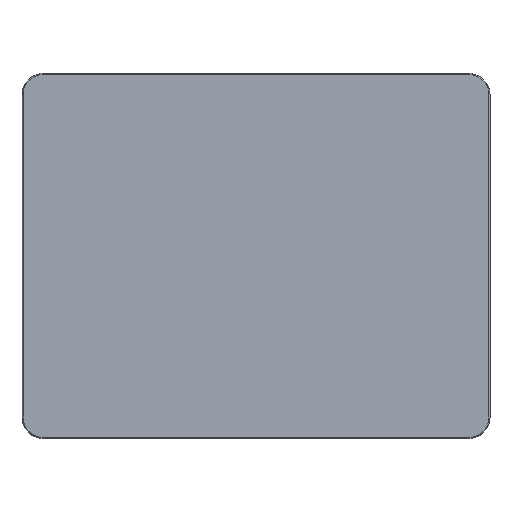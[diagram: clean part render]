
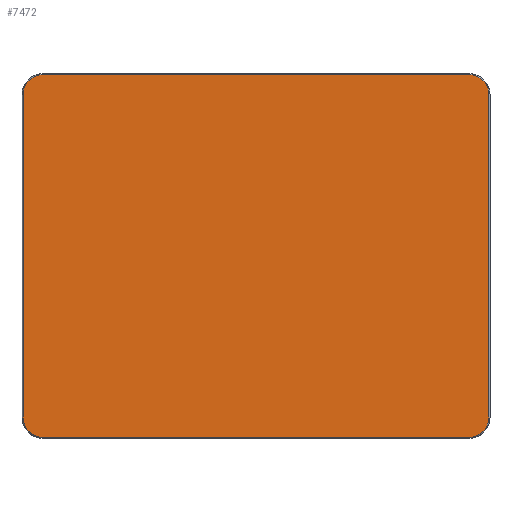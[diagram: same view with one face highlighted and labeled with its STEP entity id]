
A CAD part, top view. The second image highlights one B-rep face of the part: STEP entity #7472.
In plain terms, the highlighted planar face has unit normal (0, 0, 1).
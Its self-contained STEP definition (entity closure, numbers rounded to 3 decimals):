
#5824 = PLANE('',#5825);
#5825 = AXIS2_PLACEMENT_3D('',#5826,#5827,#5828);
#5826 = CARTESIAN_POINT('',(-1.6,-81.675,29.875));
#5827 = DIRECTION('',(0.,0.707,-0.707));
#5828 = DIRECTION('',(-1.,-0.,-0.));
#5907 = CONICAL_SURFACE('',#5908,5.2,0.785);
#5908 = AXIS2_PLACEMENT_3D('',#5909,#5910,#5911);
#5909 = CARTESIAN_POINT('',(101.6,-76.6,29.75));
#5910 = DIRECTION('',(-0.,-0.,-1.));
#5911 = DIRECTION('',(0.,-1.,0.));
#5923 = VERTEX_POINT('',#5924);
#5924 = CARTESIAN_POINT('',(-1.6,-81.55,30.));
#5937 = CONICAL_SURFACE('',#5938,5.2,0.785);
#5938 = AXIS2_PLACEMENT_3D('',#5939,#5940,#5941);
#5939 = CARTESIAN_POINT('',(-1.6,-76.6,29.75));
#5940 = DIRECTION('',(-0.,-0.,-1.));
#5941 = DIRECTION('',(-1.,0.,0.));
#5950 = VERTEX_POINT('',#5951);
#5951 = CARTESIAN_POINT('',(101.6,-81.55,30.));
#5970 = EDGE_CURVE('',#5923,#5950,#5971,.T.);
#5971 = SURFACE_CURVE('',#5972,(#5976,#5983),.PCURVE_S1.);
#5972 = LINE('',#5973,#5974);
#5973 = CARTESIAN_POINT('',(-1.6,-81.55,30.));
#5974 = VECTOR('',#5975,1.);
#5975 = DIRECTION('',(1.,0.,0.));
#5976 = PCURVE('',#5824,#5977);
#5977 = DEFINITIONAL_REPRESENTATION('',(#5978),#5982);
#5978 = LINE('',#5979,#5980);
#5979 = CARTESIAN_POINT('',(-0.,0.177));
#5980 = VECTOR('',#5981,1.);
#5981 = DIRECTION('',(-1.,0.));
#5982 = ( GEOMETRIC_REPRESENTATION_CONTEXT(2) 
PARAMETRIC_REPRESENTATION_CONTEXT() REPRESENTATION_CONTEXT('2D SPACE',''
  ) );
#5983 = PCURVE('',#5984,#5989);
#5984 = PLANE('',#5985);
#5985 = AXIS2_PLACEMENT_3D('',#5986,#5987,#5988);
#5986 = CARTESIAN_POINT('',(50.,-37.5,30.));
#5987 = DIRECTION('',(0.,0.,1.));
#5988 = DIRECTION('',(1.,0.,-0.));
#5989 = DEFINITIONAL_REPRESENTATION('',(#5990),#5994);
#5990 = LINE('',#5991,#5992);
#5991 = CARTESIAN_POINT('',(-51.6,-44.05));
#5992 = VECTOR('',#5993,1.);
#5993 = DIRECTION('',(1.,0.));
#5994 = ( GEOMETRIC_REPRESENTATION_CONTEXT(2) 
PARAMETRIC_REPRESENTATION_CONTEXT() REPRESENTATION_CONTEXT('2D SPACE',''
  ) );
#7324 = VERTEX_POINT('',#7325);
#7325 = CARTESIAN_POINT('',(106.55,-76.6,30.));
#7338 = PLANE('',#7339);
#7339 = AXIS2_PLACEMENT_3D('',#7340,#7341,#7342);
#7340 = CARTESIAN_POINT('',(106.675,-76.6,29.875));
#7341 = DIRECTION('',(-0.707,0.,-0.707));
#7342 = DIRECTION('',(-0.,-1.,-0.));
#7349 = EDGE_CURVE('',#5950,#7324,#7350,.T.);
#7350 = SURFACE_CURVE('',#7351,(#7356,#7363),.PCURVE_S1.);
#7351 = CIRCLE('',#7352,4.95);
#7352 = AXIS2_PLACEMENT_3D('',#7353,#7354,#7355);
#7353 = CARTESIAN_POINT('',(101.6,-76.6,30.));
#7354 = DIRECTION('',(0.,0.,1.));
#7355 = DIRECTION('',(0.,-1.,0.));
#7356 = PCURVE('',#5907,#7357);
#7357 = DEFINITIONAL_REPRESENTATION('',(#7358),#7362);
#7358 = LINE('',#7359,#7360);
#7359 = CARTESIAN_POINT('',(-0.,-0.25));
#7360 = VECTOR('',#7361,1.);
#7361 = DIRECTION('',(-1.,-0.));
#7362 = ( GEOMETRIC_REPRESENTATION_CONTEXT(2) 
PARAMETRIC_REPRESENTATION_CONTEXT() REPRESENTATION_CONTEXT('2D SPACE',''
  ) );
#7363 = PCURVE('',#5984,#7364);
#7364 = DEFINITIONAL_REPRESENTATION('',(#7365),#7369);
#7365 = CIRCLE('',#7366,4.95);
#7366 = AXIS2_PLACEMENT_2D('',#7367,#7368);
#7367 = CARTESIAN_POINT('',(51.6,-39.1));
#7368 = DIRECTION('',(0.,-1.));
#7369 = ( GEOMETRIC_REPRESENTATION_CONTEXT(2) 
PARAMETRIC_REPRESENTATION_CONTEXT() REPRESENTATION_CONTEXT('2D SPACE',''
  ) );
#7424 = VERTEX_POINT('',#7425);
#7425 = CARTESIAN_POINT('',(-6.55,-76.6,30.));
#7438 = PLANE('',#7439);
#7439 = AXIS2_PLACEMENT_3D('',#7440,#7441,#7442);
#7440 = CARTESIAN_POINT('',(-6.675,1.6,29.875));
#7441 = DIRECTION('',(0.707,0.,-0.707));
#7442 = DIRECTION('',(-0.,1.,-0.));
#7451 = EDGE_CURVE('',#7424,#5923,#7452,.T.);
#7452 = SURFACE_CURVE('',#7453,(#7458,#7465),.PCURVE_S1.);
#7453 = CIRCLE('',#7454,4.95);
#7454 = AXIS2_PLACEMENT_3D('',#7455,#7456,#7457);
#7455 = CARTESIAN_POINT('',(-1.6,-76.6,30.));
#7456 = DIRECTION('',(0.,0.,1.));
#7457 = DIRECTION('',(-1.,0.,0.));
#7458 = PCURVE('',#5937,#7459);
#7459 = DEFINITIONAL_REPRESENTATION('',(#7460),#7464);
#7460 = LINE('',#7461,#7462);
#7461 = CARTESIAN_POINT('',(-0.,-0.25));
#7462 = VECTOR('',#7463,1.);
#7463 = DIRECTION('',(-1.,-0.));
#7464 = ( GEOMETRIC_REPRESENTATION_CONTEXT(2) 
PARAMETRIC_REPRESENTATION_CONTEXT() REPRESENTATION_CONTEXT('2D SPACE',''
  ) );
#7465 = PCURVE('',#5984,#7466);
#7466 = DEFINITIONAL_REPRESENTATION('',(#7467),#7471);
#7467 = CIRCLE('',#7468,4.95);
#7468 = AXIS2_PLACEMENT_2D('',#7469,#7470);
#7469 = CARTESIAN_POINT('',(-51.6,-39.1));
#7470 = DIRECTION('',(-1.,0.));
#7471 = ( GEOMETRIC_REPRESENTATION_CONTEXT(2) 
PARAMETRIC_REPRESENTATION_CONTEXT() REPRESENTATION_CONTEXT('2D SPACE',''
  ) );
#7472 = ADVANCED_FACE('',(#7473),#5984,.T.);
#7473 = FACE_BOUND('',#7474,.T.);
#7474 = EDGE_LOOP('',(#7475,#7476,#7477,#7500,#7529,#7557,#7586,#7607));
#7475 = ORIENTED_EDGE('',*,*,#5970,.T.);
#7476 = ORIENTED_EDGE('',*,*,#7349,.T.);
#7477 = ORIENTED_EDGE('',*,*,#7478,.T.);
#7478 = EDGE_CURVE('',#7324,#7479,#7481,.T.);
#7479 = VERTEX_POINT('',#7480);
#7480 = CARTESIAN_POINT('',(106.55,1.6,30.));
#7481 = SURFACE_CURVE('',#7482,(#7486,#7493),.PCURVE_S1.);
#7482 = LINE('',#7483,#7484);
#7483 = CARTESIAN_POINT('',(106.55,-76.6,30.));
#7484 = VECTOR('',#7485,1.);
#7485 = DIRECTION('',(0.,1.,0.));
#7486 = PCURVE('',#5984,#7487);
#7487 = DEFINITIONAL_REPRESENTATION('',(#7488),#7492);
#7488 = LINE('',#7489,#7490);
#7489 = CARTESIAN_POINT('',(56.55,-39.1));
#7490 = VECTOR('',#7491,1.);
#7491 = DIRECTION('',(0.,1.));
#7492 = ( GEOMETRIC_REPRESENTATION_CONTEXT(2) 
PARAMETRIC_REPRESENTATION_CONTEXT() REPRESENTATION_CONTEXT('2D SPACE',''
  ) );
#7493 = PCURVE('',#7338,#7494);
#7494 = DEFINITIONAL_REPRESENTATION('',(#7495),#7499);
#7495 = LINE('',#7496,#7497);
#7496 = CARTESIAN_POINT('',(-0.,0.177));
#7497 = VECTOR('',#7498,1.);
#7498 = DIRECTION('',(-1.,0.));
#7499 = ( GEOMETRIC_REPRESENTATION_CONTEXT(2) 
PARAMETRIC_REPRESENTATION_CONTEXT() REPRESENTATION_CONTEXT('2D SPACE',''
  ) );
#7500 = ORIENTED_EDGE('',*,*,#7501,.T.);
#7501 = EDGE_CURVE('',#7479,#7502,#7504,.T.);
#7502 = VERTEX_POINT('',#7503);
#7503 = CARTESIAN_POINT('',(101.6,6.55,30.));
#7504 = SURFACE_CURVE('',#7505,(#7510,#7517),.PCURVE_S1.);
#7505 = CIRCLE('',#7506,4.95);
#7506 = AXIS2_PLACEMENT_3D('',#7507,#7508,#7509);
#7507 = CARTESIAN_POINT('',(101.6,1.6,30.));
#7508 = DIRECTION('',(0.,0.,1.));
#7509 = DIRECTION('',(1.,0.,0.));
#7510 = PCURVE('',#5984,#7511);
#7511 = DEFINITIONAL_REPRESENTATION('',(#7512),#7516);
#7512 = CIRCLE('',#7513,4.95);
#7513 = AXIS2_PLACEMENT_2D('',#7514,#7515);
#7514 = CARTESIAN_POINT('',(51.6,39.1));
#7515 = DIRECTION('',(1.,0.));
#7516 = ( GEOMETRIC_REPRESENTATION_CONTEXT(2) 
PARAMETRIC_REPRESENTATION_CONTEXT() REPRESENTATION_CONTEXT('2D SPACE',''
  ) );
#7517 = PCURVE('',#7518,#7523);
#7518 = CONICAL_SURFACE('',#7519,5.2,0.785);
#7519 = AXIS2_PLACEMENT_3D('',#7520,#7521,#7522);
#7520 = CARTESIAN_POINT('',(101.6,1.6,29.75));
#7521 = DIRECTION('',(-0.,-0.,-1.));
#7522 = DIRECTION('',(1.,0.,0.));
#7523 = DEFINITIONAL_REPRESENTATION('',(#7524),#7528);
#7524 = LINE('',#7525,#7526);
#7525 = CARTESIAN_POINT('',(-0.,-0.25));
#7526 = VECTOR('',#7527,1.);
#7527 = DIRECTION('',(-1.,-0.));
#7528 = ( GEOMETRIC_REPRESENTATION_CONTEXT(2) 
PARAMETRIC_REPRESENTATION_CONTEXT() REPRESENTATION_CONTEXT('2D SPACE',''
  ) );
#7529 = ORIENTED_EDGE('',*,*,#7530,.T.);
#7530 = EDGE_CURVE('',#7502,#7531,#7533,.T.);
#7531 = VERTEX_POINT('',#7532);
#7532 = CARTESIAN_POINT('',(-1.6,6.55,30.));
#7533 = SURFACE_CURVE('',#7534,(#7538,#7545),.PCURVE_S1.);
#7534 = LINE('',#7535,#7536);
#7535 = CARTESIAN_POINT('',(101.6,6.55,30.));
#7536 = VECTOR('',#7537,1.);
#7537 = DIRECTION('',(-1.,0.,0.));
#7538 = PCURVE('',#5984,#7539);
#7539 = DEFINITIONAL_REPRESENTATION('',(#7540),#7544);
#7540 = LINE('',#7541,#7542);
#7541 = CARTESIAN_POINT('',(51.6,44.05));
#7542 = VECTOR('',#7543,1.);
#7543 = DIRECTION('',(-1.,0.));
#7544 = ( GEOMETRIC_REPRESENTATION_CONTEXT(2) 
PARAMETRIC_REPRESENTATION_CONTEXT() REPRESENTATION_CONTEXT('2D SPACE',''
  ) );
#7545 = PCURVE('',#7546,#7551);
#7546 = PLANE('',#7547);
#7547 = AXIS2_PLACEMENT_3D('',#7548,#7549,#7550);
#7548 = CARTESIAN_POINT('',(101.6,6.675,29.875));
#7549 = DIRECTION('',(0.,-0.707,-0.707));
#7550 = DIRECTION('',(1.,0.,-0.));
#7551 = DEFINITIONAL_REPRESENTATION('',(#7552),#7556);
#7552 = LINE('',#7553,#7554);
#7553 = CARTESIAN_POINT('',(-0.,0.177));
#7554 = VECTOR('',#7555,1.);
#7555 = DIRECTION('',(-1.,0.));
#7556 = ( GEOMETRIC_REPRESENTATION_CONTEXT(2) 
PARAMETRIC_REPRESENTATION_CONTEXT() REPRESENTATION_CONTEXT('2D SPACE',''
  ) );
#7557 = ORIENTED_EDGE('',*,*,#7558,.T.);
#7558 = EDGE_CURVE('',#7531,#7559,#7561,.T.);
#7559 = VERTEX_POINT('',#7560);
#7560 = CARTESIAN_POINT('',(-6.55,1.6,30.));
#7561 = SURFACE_CURVE('',#7562,(#7567,#7574),.PCURVE_S1.);
#7562 = CIRCLE('',#7563,4.95);
#7563 = AXIS2_PLACEMENT_3D('',#7564,#7565,#7566);
#7564 = CARTESIAN_POINT('',(-1.6,1.6,30.));
#7565 = DIRECTION('',(0.,0.,1.));
#7566 = DIRECTION('',(0.,1.,-0.));
#7567 = PCURVE('',#5984,#7568);
#7568 = DEFINITIONAL_REPRESENTATION('',(#7569),#7573);
#7569 = CIRCLE('',#7570,4.95);
#7570 = AXIS2_PLACEMENT_2D('',#7571,#7572);
#7571 = CARTESIAN_POINT('',(-51.6,39.1));
#7572 = DIRECTION('',(0.,1.));
#7573 = ( GEOMETRIC_REPRESENTATION_CONTEXT(2) 
PARAMETRIC_REPRESENTATION_CONTEXT() REPRESENTATION_CONTEXT('2D SPACE',''
  ) );
#7574 = PCURVE('',#7575,#7580);
#7575 = CONICAL_SURFACE('',#7576,5.2,0.785);
#7576 = AXIS2_PLACEMENT_3D('',#7577,#7578,#7579);
#7577 = CARTESIAN_POINT('',(-1.6,1.6,29.75));
#7578 = DIRECTION('',(-0.,-0.,-1.));
#7579 = DIRECTION('',(0.,1.,-0.));
#7580 = DEFINITIONAL_REPRESENTATION('',(#7581),#7585);
#7581 = LINE('',#7582,#7583);
#7582 = CARTESIAN_POINT('',(-0.,-0.25));
#7583 = VECTOR('',#7584,1.);
#7584 = DIRECTION('',(-1.,-0.));
#7585 = ( GEOMETRIC_REPRESENTATION_CONTEXT(2) 
PARAMETRIC_REPRESENTATION_CONTEXT() REPRESENTATION_CONTEXT('2D SPACE',''
  ) );
#7586 = ORIENTED_EDGE('',*,*,#7587,.T.);
#7587 = EDGE_CURVE('',#7559,#7424,#7588,.T.);
#7588 = SURFACE_CURVE('',#7589,(#7593,#7600),.PCURVE_S1.);
#7589 = LINE('',#7590,#7591);
#7590 = CARTESIAN_POINT('',(-6.55,1.6,30.));
#7591 = VECTOR('',#7592,1.);
#7592 = DIRECTION('',(0.,-1.,0.));
#7593 = PCURVE('',#5984,#7594);
#7594 = DEFINITIONAL_REPRESENTATION('',(#7595),#7599);
#7595 = LINE('',#7596,#7597);
#7596 = CARTESIAN_POINT('',(-56.55,39.1));
#7597 = VECTOR('',#7598,1.);
#7598 = DIRECTION('',(0.,-1.));
#7599 = ( GEOMETRIC_REPRESENTATION_CONTEXT(2) 
PARAMETRIC_REPRESENTATION_CONTEXT() REPRESENTATION_CONTEXT('2D SPACE',''
  ) );
#7600 = PCURVE('',#7438,#7601);
#7601 = DEFINITIONAL_REPRESENTATION('',(#7602),#7606);
#7602 = LINE('',#7603,#7604);
#7603 = CARTESIAN_POINT('',(-0.,0.177));
#7604 = VECTOR('',#7605,1.);
#7605 = DIRECTION('',(-1.,0.));
#7606 = ( GEOMETRIC_REPRESENTATION_CONTEXT(2) 
PARAMETRIC_REPRESENTATION_CONTEXT() REPRESENTATION_CONTEXT('2D SPACE',''
  ) );
#7607 = ORIENTED_EDGE('',*,*,#7451,.T.);
